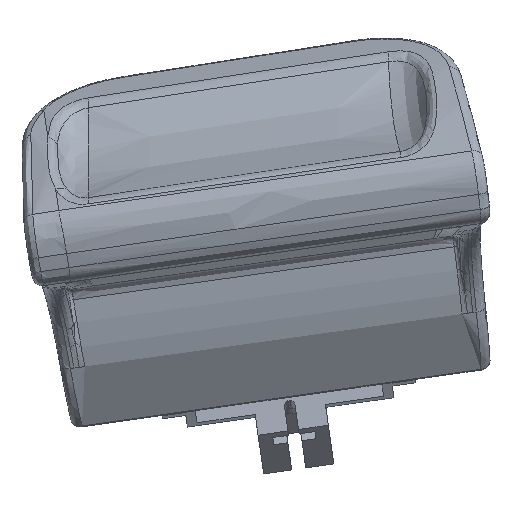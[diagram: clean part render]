
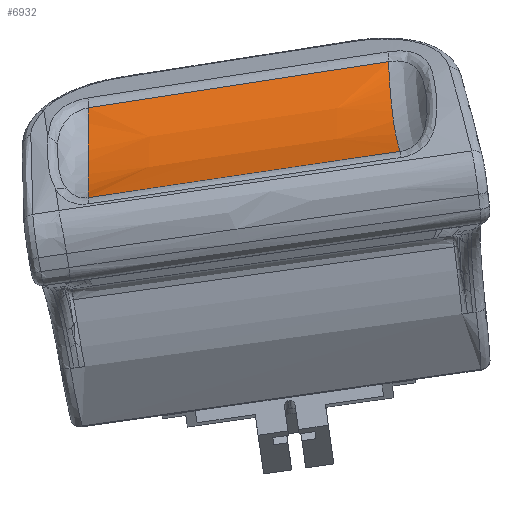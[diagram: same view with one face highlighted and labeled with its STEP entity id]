
A CAD part, front view. The second image highlights one B-rep face of the part: STEP entity #6932.
In plain terms, the highlighted free-form (B-spline) face has degree [5, 3] with [6, 4] control points.
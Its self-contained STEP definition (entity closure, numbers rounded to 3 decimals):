
#4270=CARTESIAN_POINT('Vertex',(-461.201,-959.776,487.528)) ;
#4324=CARTESIAN_POINT('Vertex',(-461.246,-978.261,474.855)) ;
#4328=CARTESIAN_POINT('Control Point',(-461.201,-959.776,487.528)) ;
#4329=CARTESIAN_POINT('Control Point',(-461.206,-960.133,486.744)) ;
#4330=CARTESIAN_POINT('Control Point',(-461.219,-961.226,484.726)) ;
#4331=CARTESIAN_POINT('Control Point',(-461.23,-964.171,481.053)) ;
#4332=CARTESIAN_POINT('Control Point',(-461.248,-968.084,478.397)) ;
#4333=CARTESIAN_POINT('Control Point',(-461.247,-972.382,476.515)) ;
#4334=CARTESIAN_POINT('Control Point',(-461.246,-975.981,475.405)) ;
#4335=CARTESIAN_POINT('Control Point',(-461.246,-978.261,474.855)) ;
#5929=CARTESIAN_POINT('Control Point',(-461.201,-959.776,487.53)) ;
#5930=CARTESIAN_POINT('Control Point',(-452.776,-960.214,488.86)) ;
#5931=CARTESIAN_POINT('Control Point',(-444.226,-960.657,490.188)) ;
#5932=CARTESIAN_POINT('Control Point',(-435.879,-961.088,491.466)) ;
#5933=CARTESIAN_POINT('Control Point',(-427.335,-961.53,492.761)) ;
#5934=CARTESIAN_POINT('Control Point',(-418.894,-961.966,494.028)) ;
#5935=CARTESIAN_POINT('Vertex',(-418.894,-961.966,494.028)) ;
#6089=CARTESIAN_POINT('Vertex',(-417.257,-980.908,481.39)) ;
#6254=CARTESIAN_POINT('Control Point',(-417.257,-980.909,481.39)) ;
#6255=CARTESIAN_POINT('Control Point',(-426.083,-980.379,480.178)) ;
#6256=CARTESIAN_POINT('Control Point',(-434.853,-979.852,478.937)) ;
#6257=CARTESIAN_POINT('Control Point',(-443.698,-979.319,477.64)) ;
#6258=CARTESIAN_POINT('Control Point',(-452.457,-978.791,476.294)) ;
#6259=CARTESIAN_POINT('Control Point',(-461.246,-978.26,474.856)) ;
#6852=CARTESIAN_POINT('Control Point',(-418.894,-961.966,494.028)) ;
#6853=CARTESIAN_POINT('Control Point',(-418.887,-962.033,493.881)) ;
#6854=CARTESIAN_POINT('Control Point',(-418.865,-962.258,493.408)) ;
#6855=CARTESIAN_POINT('Control Point',(-418.825,-962.673,492.625)) ;
#6856=CARTESIAN_POINT('Control Point',(-418.781,-963.151,491.86)) ;
#6857=CARTESIAN_POINT('Control Point',(-418.734,-963.674,491.133)) ;
#6858=CARTESIAN_POINT('Control Point',(-418.693,-964.133,490.561)) ;
#6859=CARTESIAN_POINT('Control Point',(-418.672,-964.373,490.276)) ;
#6860=CARTESIAN_POINT('Control Point',(-418.672,-964.38,490.269)) ;
#6861=CARTESIAN_POINT('Vertex',(-418.672,-964.38,490.269)) ;
#6865=CARTESIAN_POINT('Control Point',(-418.672,-964.38,490.269)) ;
#6866=CARTESIAN_POINT('Control Point',(-418.652,-964.598,490.011)) ;
#6867=CARTESIAN_POINT('Control Point',(-418.613,-965.053,489.498)) ;
#6868=CARTESIAN_POINT('Control Point',(-418.548,-965.794,488.736)) ;
#6869=CARTESIAN_POINT('Control Point',(-418.457,-966.853,487.773)) ;
#6870=CARTESIAN_POINT('Control Point',(-418.358,-968.018,486.886)) ;
#6871=CARTESIAN_POINT('Control Point',(-418.28,-968.933,486.259)) ;
#6872=CARTESIAN_POINT('Control Point',(-418.225,-969.579,485.851)) ;
#6873=CARTESIAN_POINT('Control Point',(-418.196,-969.912,485.648)) ;
#6874=CARTESIAN_POINT('Control Point',(-418.195,-969.924,485.641)) ;
#6875=CARTESIAN_POINT('Vertex',(-418.196,-969.924,485.642)) ;
#6879=CARTESIAN_POINT('Control Point',(-418.195,-969.924,485.641)) ;
#6880=CARTESIAN_POINT('Control Point',(-418.144,-970.529,485.274)) ;
#6881=CARTESIAN_POINT('Control Point',(-418.037,-971.78,484.571)) ;
#6882=CARTESIAN_POINT('Control Point',(-417.868,-973.745,483.622)) ;
#6883=CARTESIAN_POINT('Control Point',(-417.685,-975.885,482.77)) ;
#6884=CARTESIAN_POINT('Control Point',(-417.485,-978.232,482.056)) ;
#6885=CARTESIAN_POINT('Control Point',(-417.353,-979.789,481.649)) ;
#6886=CARTESIAN_POINT('Control Point',(-417.275,-980.699,481.437)) ;
#6887=CARTESIAN_POINT('Control Point',(-417.257,-980.908,481.39)) ;
#6900=CARTESIAN_POINT('Control Point',(-410.326,-961.487,497.974)) ;
#6901=CARTESIAN_POINT('Control Point',(-410.37,-963.404,490.076)) ;
#6902=CARTESIAN_POINT('Control Point',(-410.448,-971.722,484.04)) ;
#6903=CARTESIAN_POINT('Control Point',(-410.301,-983.826,481.804)) ;
#6904=CARTESIAN_POINT('Control Point',(-422.032,-960.881,496.231)) ;
#6905=CARTESIAN_POINT('Control Point',(-422.077,-962.793,488.351)) ;
#6906=CARTESIAN_POINT('Control Point',(-422.27,-971.067,482.437)) ;
#6907=CARTESIAN_POINT('Control Point',(-422.12,-983.115,480.213)) ;
#6908=CARTESIAN_POINT('Control Point',(-433.736,-960.275,494.465)) ;
#6909=CARTESIAN_POINT('Control Point',(-433.781,-962.183,486.604)) ;
#6910=CARTESIAN_POINT('Control Point',(-434.085,-970.413,480.775)) ;
#6911=CARTESIAN_POINT('Control Point',(-433.93,-982.404,478.562)) ;
#6912=CARTESIAN_POINT('Control Point',(-445.436,-959.669,492.676)) ;
#6913=CARTESIAN_POINT('Control Point',(-445.48,-961.573,484.834)) ;
#6914=CARTESIAN_POINT('Control Point',(-445.89,-969.759,479.038)) ;
#6915=CARTESIAN_POINT('Control Point',(-445.73,-981.694,476.836)) ;
#6916=CARTESIAN_POINT('Control Point',(-457.131,-959.064,490.854)) ;
#6917=CARTESIAN_POINT('Control Point',(-457.176,-960.963,483.031)) ;
#6918=CARTESIAN_POINT('Control Point',(-457.682,-969.106,477.187)) ;
#6919=CARTESIAN_POINT('Control Point',(-457.513,-980.985,474.996)) ;
#6920=CARTESIAN_POINT('Control Point',(-468.819,-958.459,488.986)) ;
#6921=CARTESIAN_POINT('Control Point',(-468.863,-960.353,481.181)) ;
#6922=CARTESIAN_POINT('Control Point',(-469.447,-968.455,475.154)) ;
#6923=CARTESIAN_POINT('Control Point',(-469.266,-980.277,472.976)) ;
#6925=ORIENTED_EDGE('',*,*,#4336,.T.) ;
#6926=ORIENTED_EDGE('',*,*,#6260,.T.) ;
#6927=ORIENTED_EDGE('',*,*,#6888,.F.) ;
#6928=ORIENTED_EDGE('',*,*,#6877,.T.) ;
#6929=ORIENTED_EDGE('',*,*,#6863,.T.) ;
#6930=ORIENTED_EDGE('',*,*,#5937,.T.) ;
#6932=ADVANCED_FACE('\X2\6263624B\X0\',(#6931),#6899,.T.) ;
#4336=EDGE_CURVE('',#4271,#4325,#4327,.T.) ;
#5937=EDGE_CURVE('',#5936,#4271,#5928,.F.) ;
#6260=EDGE_CURVE('',#4325,#6090,#6253,.F.) ;
#6863=EDGE_CURVE('',#6862,#5936,#6851,.F.) ;
#6877=EDGE_CURVE('',#6876,#6862,#6864,.F.) ;
#6888=EDGE_CURVE('',#6876,#6090,#6878,.T.) ;
#6924=EDGE_LOOP('',(#6925,#6926,#6927,#6928,#6929,#6930)) ;
#6931=FACE_OUTER_BOUND('',#6924,.T.) ;
#4271=VERTEX_POINT('',#4270) ;
#4325=VERTEX_POINT('',#4324) ;
#5936=VERTEX_POINT('',#5935) ;
#6090=VERTEX_POINT('',#6089) ;
#6862=VERTEX_POINT('',#6861) ;
#6876=VERTEX_POINT('',#6875) ;
#4327=(BOUNDED_CURVE()B_SPLINE_CURVE(5,(#4328,#4329,#4330,#4331,#4332,#4333,#4334,#4335),.UNSPECIFIED.,.F.,.U.)B_SPLINE_CURVE_WITH_KNOTS((6,1,1,6),(2.644,6.675,13.35,24.316),.UNSPECIFIED.)CURVE()GEOMETRIC_REPRESENTATION_ITEM()RATIONAL_B_SPLINE_CURVE((1.,1.,1.,1.,1.,1.,1.,1.))REPRESENTATION_ITEM('')) ;
#5928=(BOUNDED_CURVE()B_SPLINE_CURVE(5,(#5929,#5930,#5931,#5932,#5933,#5934),.UNSPECIFIED.,.F.,.U.)B_SPLINE_CURVE_WITH_KNOTS((6,6),(0.,42.834),.UNSPECIFIED.)CURVE()GEOMETRIC_REPRESENTATION_ITEM()RATIONAL_B_SPLINE_CURVE((1.,1.,1.,1.,1.,1.))REPRESENTATION_ITEM('')) ;
#6253=(BOUNDED_CURVE()B_SPLINE_CURVE(5,(#6254,#6255,#6256,#6257,#6258,#6259),.UNSPECIFIED.,.F.,.U.)B_SPLINE_CURVE_WITH_KNOTS((6,6),(0.,44.537),.UNSPECIFIED.)CURVE()GEOMETRIC_REPRESENTATION_ITEM()RATIONAL_B_SPLINE_CURVE((1.,1.,1.,1.,1.,1.))REPRESENTATION_ITEM('')) ;
#6851=(BOUNDED_CURVE()B_SPLINE_CURVE(5,(#6852,#6853,#6854,#6855,#6856,#6857,#6858,#6859,#6860),.UNSPECIFIED.,.F.,.U.)B_SPLINE_CURVE_WITH_KNOTS((6,1,1,1,6),(2.61,3.362,5.043,6.723,6.771),.UNSPECIFIED.)CURVE()GEOMETRIC_REPRESENTATION_ITEM()RATIONAL_B_SPLINE_CURVE((1.,1.,1.,1.,1.,1.,1.,1.,1.))REPRESENTATION_ITEM('')) ;
#6864=(BOUNDED_CURVE()B_SPLINE_CURVE(5,(#6865,#6866,#6867,#6868,#6869,#6870,#6871,#6872,#6873,#6874),.UNSPECIFIED.,.F.,.U.)B_SPLINE_CURVE_WITH_KNOTS((6,1,1,1,1,6),(6.771,8.337,9.951,11.699,13.447,13.512),.UNSPECIFIED.)CURVE()GEOMETRIC_REPRESENTATION_ITEM()RATIONAL_B_SPLINE_CURVE((1.,1.,1.,1.,1.,1.,1.,1.,1.,1.))REPRESENTATION_ITEM('')) ;
#6878=(BOUNDED_CURVE()B_SPLINE_CURVE(5,(#6879,#6880,#6881,#6882,#6883,#6884,#6885,#6886,#6887),.UNSPECIFIED.,.F.,.U.)B_SPLINE_CURVE_WITH_KNOTS((6,1,1,1,6),(13.512,16.809,20.17,23.532,24.522),.UNSPECIFIED.)CURVE()GEOMETRIC_REPRESENTATION_ITEM()RATIONAL_B_SPLINE_CURVE((1.,1.,1.,1.,1.,1.,1.,1.,1.))REPRESENTATION_ITEM('')) ;
#6899=(BOUNDED_SURFACE()B_SPLINE_SURFACE(5,3,((#6900,#6901,#6902,#6903),(#6904,#6905,#6906,#6907),(#6908,#6909,#6910,#6911),(#6912,#6913,#6914,#6915),(#6916,#6917,#6918,#6919),(#6920,#6921,#6922,#6923)),.UNSPECIFIED.,.F.,.F.,.U.)B_SPLINE_SURFACE_WITH_KNOTS((6,6),(4,4),(0.,59.498),(0.,30.367),.UNSPECIFIED.)GEOMETRIC_REPRESENTATION_ITEM()RATIONAL_B_SPLINE_SURFACE(((1.,1.,1.,1.),(1.,1.,1.,1.),(1.,1.,1.,1.),(1.,1.,1.,1.),(1.,1.,1.,1.),(1.,1.,1.,1.)))REPRESENTATION_ITEM('Rational BSpline Surface')SURFACE()) ;
